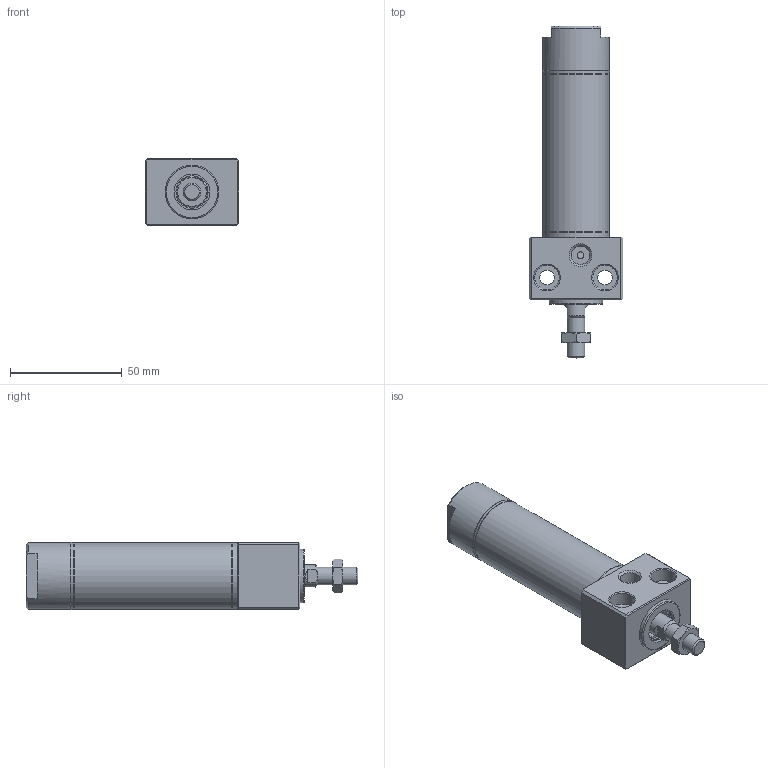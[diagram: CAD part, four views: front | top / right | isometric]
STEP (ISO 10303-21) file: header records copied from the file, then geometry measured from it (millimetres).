
FILE_DESCRIPTION((''),'2;1');
FILE_NAME('I:\3D電子目錄\氣缸\DBS\DBS\DBS25x25.stp','2007-10-08T08:33:56',('Administrator'),(''),'Autodesk Inventor 2008','Autodesk Inventor 2008','');
FILE_SCHEMA(('AUTOMOTIVE_DESIGN { 1 0 10303 214 1 1 1 1 }'));
Length unit declared in the file: millimetre
Products named in the file (1): DBS25x25
Bounding box: 42 x 148.6 x 30 mm (x, y, z)
Volume: 69854.7 mm3; surface area: 31906.2 mm2
Topology: 6 solids, 6 shells, 163 faces, 317 edges, 192 vertices
Faces by surface type: plane 72, cone 41, cylinder 35, bspline 12, torus 3
Full cylindrical faces by diameter (mm): 3 x1, 5 x1, 6 x1, 7 x1, 8 x2, 10 x1, 10.5 x1, 12 x1, 13 x2, 14 x1, 15.5 x2, 16 x2, 17 x1, 18 x2, 23 x2, 24 x1, 25 x1, 25.5 x2, 27.2 x6, 30 x4
Entity records: 3973 total; most frequent: CARTESIAN_POINT 911, DIRECTION 644, ORIENTED_EDGE 484, AXIS2_PLACEMENT_3D 284, EDGE_LOOP 278, EDGE_CURVE 242, VERTEX_POINT 188, FACE_OUTER_BOUND 163
